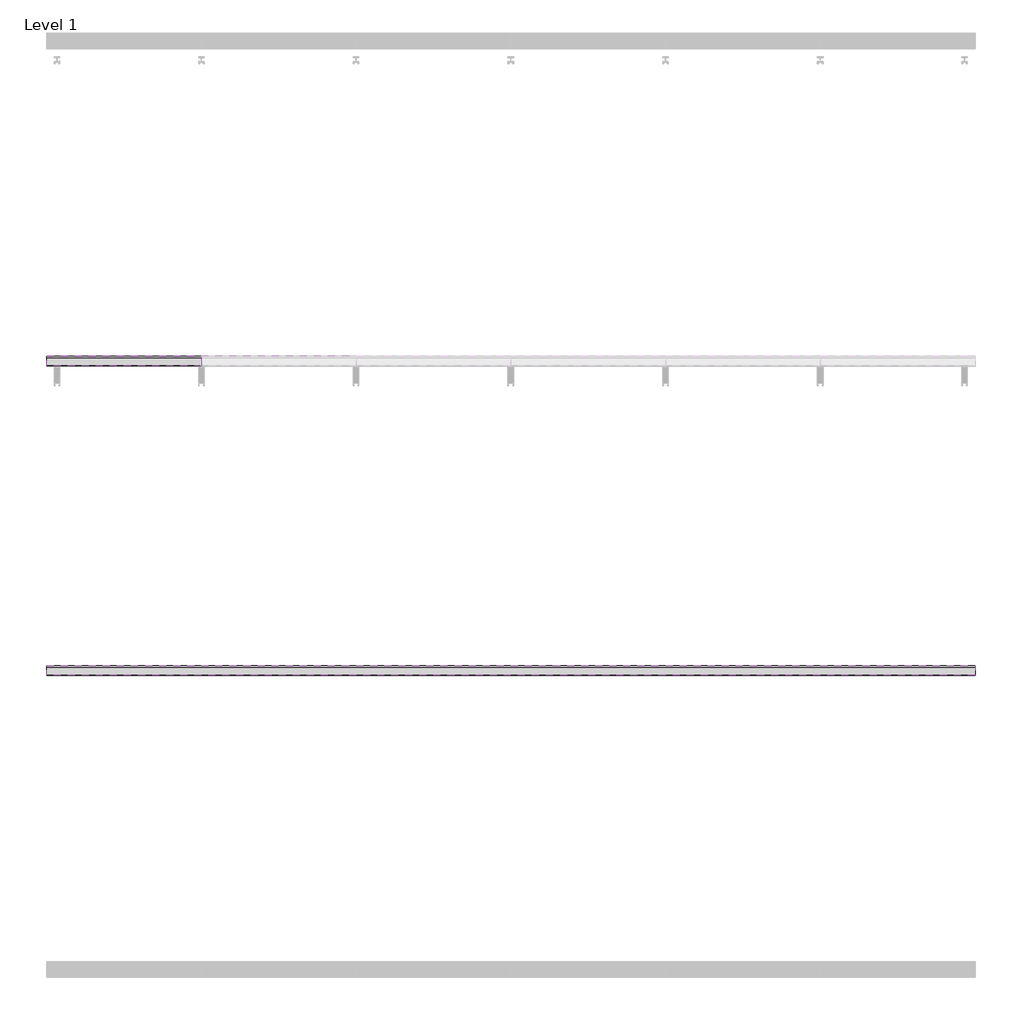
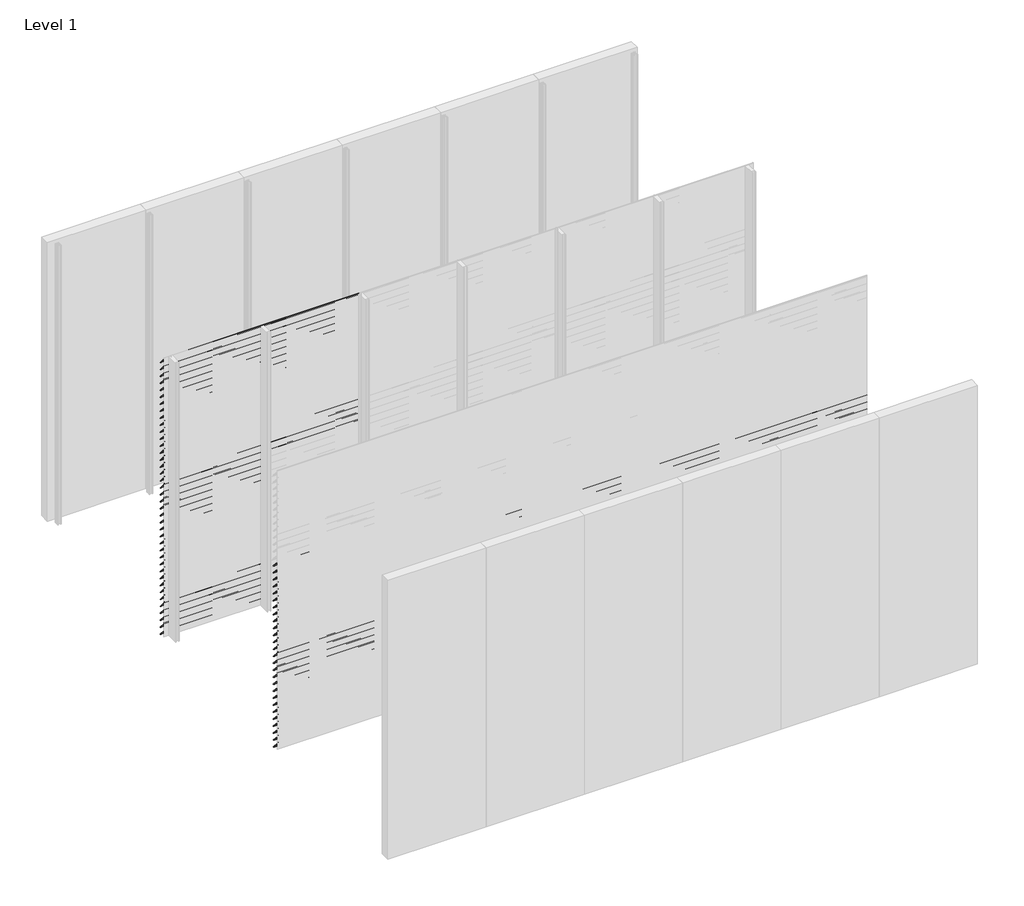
# One storey, part 7 of 35: 86 proxies.
"""IFC4 building model written with IfcOpenShell, lengths in millimetres."""

import ifcopenshell
import ifcopenshell.guid

model = None  # the IFC model being written
_history = None  # IfcOwnerHistory: only IFC2X3 demands one
_inside = {}  # id of a spatial element -> (the spatial element, [elements in it])
_under = {}  # id of a project, library or spatial element -> (it, [spatial elements below it])
_declared = {}  # id of a project -> (the project, [libraries it declares])
_typed = {}  # id of a type object -> (the type object, [elements of that type])
_made_of = {}  # id of a material, layer set ... -> (it, [elements and type objects made of it])


def new_model(schema):
    """Start an empty IFC model of exactly this schema.

    Asked for "IFC4X3", IfcOpenShell would pick the latest addendum, in which some entities
    have other attributes; the version numbers below select the first issue.
    IFC2X3 requires an IfcOwnerHistory on every rooted entity: one is made here for all.
    """
    global model, _history
    if schema == "IFC4X3":
        model = ifcopenshell.file(schema_version=(4, 3, 0, 0))
    else:
        model = ifcopenshell.file(schema=schema)
    _inside.clear()
    _under.clear()
    _declared.clear()
    _typed.clear()
    _made_of.clear()
    _history = None
    if model.schema == "IFC2X3":
        org = make("IfcOrganization", Name="unknown")
        user = make(
            "IfcPersonAndOrganization",
            ThePerson=make("IfcPerson", FamilyName="unknown"),
            TheOrganization=org,
        )
        app = make(
            "IfcApplication",
            ApplicationDeveloper=org,
            Version="unknown",
            ApplicationFullName="unknown",
            ApplicationIdentifier="unknown",
        )
        _history = make(
            "IfcOwnerHistory",
            OwningUser=user,
            OwningApplication=app,
            ChangeAction="ADDED",
            CreationDate=0,
        )
    return model


def make(cls, **values):
    """One entity of the class cls with the attributes given. An attribute that is None is left unset."""
    return model.create_entity(
        cls, **{name: value for name, value in values.items() if value is not None}
    )


def rooted(cls, **values):
    """An entity with a GlobalId (a new one), such as an element, a storey or a relation."""
    return make(cls, GlobalId=ifcopenshell.guid.new(), OwnerHistory=_history, **values)


def si_unit(unit_type, name, prefix=None):
    """IfcSIUnit, for example si_unit("LENGTHUNIT", "METRE", prefix="MILLI")."""
    return make("IfcSIUnit", UnitType=unit_type, Prefix=prefix, Name=name)


def assignment(units):
    """IfcUnitAssignment: the units of a project."""
    return None if units is None else make("IfcUnitAssignment", Units=units)


def point(xyz):
    """IfcCartesianPoint."""
    return None if xyz is None else make("IfcCartesianPoint", Coordinates=xyz)


def direction(xyz):
    """IfcDirection."""
    return None if xyz is None else make("IfcDirection", DirectionRatios=xyz)


def frame(location, z_axis=None, x_axis=None):
    """IfcAxis2Placement3D, a coordinate frame: its origin and axes. An axis left out is left unset."""
    return make(
        "IfcAxis2Placement3D",
        Location=point(location),
        Axis=direction(z_axis),
        RefDirection=direction(x_axis),
    )


def origin():
    """The frame at (0, 0, 0) with its axes left unset."""
    return frame((0.0, 0.0, 0.0))


def place(relative_to, where):
    """IfcLocalPlacement: puts the frame where relative to a parent placement (None: the world)."""
    return make(
        "IfcLocalPlacement", PlacementRelTo=relative_to, RelativePlacement=where
    )


def context(
    kind, dimensions, precision=None, world=None, true_north=None, identifier=None
):
    """IfcGeometricRepresentationContext, for example the 3D "Model" context."""
    return make(
        "IfcGeometricRepresentationContext",
        ContextIdentifier=identifier,
        ContextType=kind,
        CoordinateSpaceDimension=dimensions,
        Precision=precision,
        WorldCoordinateSystem=world,
        TrueNorth=true_north,
    )


def project(units=None, contexts=None):
    """IfcProject with its units and contexts."""
    return rooted(
        "IfcProject",
        Name="project",
        RepresentationContexts=contexts,
        UnitsInContext=assignment(units),
    )


def spatial(cls, under=None, at=None, **own):
    """A site, building, storey or space (cls), placed at a placement, below another one or the project."""
    s = rooted(cls, ObjectPlacement=at, **own)
    if under is not None:
        _under.setdefault(under.id(), (under, []))[1].append(s)
    return s


def polyline(points):
    """IfcPolyline through the points."""
    return make("IfcPolyline", Points=[point(p) for p in points])


def outline(outer, holes=None, kind="AREA"):
    """IfcArbitraryClosedProfileDef: a profile drawn as a closed curve; with holes, ...WithVoids."""
    if holes is None:
        return make("IfcArbitraryClosedProfileDef", ProfileType=kind, OuterCurve=outer)
    return make(
        "IfcArbitraryProfileDefWithVoids",
        ProfileType=kind,
        OuterCurve=outer,
        InnerCurves=holes,
    )


def extrude(swept, where, along, depth):
    """IfcExtrudedAreaSolid: the profile swept, set in the frame where, extruded along a direction by depth."""
    return make(
        "IfcExtrudedAreaSolid",
        SweptArea=swept,
        Position=where,
        ExtrudedDirection=direction(along),
        Depth=depth,
    )


def shape(context_of_items, identifier, shape_type, items):
    """IfcShapeRepresentation: the items that make up one representation, for example the "Body"."""
    return make(
        "IfcShapeRepresentation",
        ContextOfItems=context_of_items,
        RepresentationIdentifier=identifier,
        RepresentationType=shape_type,
        Items=items,
    )


def made_of(thing, what):
    """Note that an element or type object is made of a material, layer set ...; save() writes the relation."""
    if what is not None:
        _made_of.setdefault(what.id(), (what, []))[1].append(thing)
    return thing


def element(
    cls,
    number,
    at=None,
    inside=None,
    cuts=None,
    type_object=None,
    material=None,
    context=None,
    identifier="Body",
    shape_type=None,
    held_by="IfcProductDefinitionShape",
    body=None,
    shapes=None,
    **own,
):
    """One element of the class cls, such as IfcWall. Its Tag is "e" and its number.

    at: its placement. inside: the storey or other place that contains it. cuts: it is an
    opening in that element (IfcRelVoidsElement). A single representation is given by context,
    identifier, shape_type and body (its items); several are given by shapes. held_by: the class
    of the entity that holds the representations. save() writes the other relations.
    """
    e = rooted(cls, Tag="e%d" % number, ObjectPlacement=at, **own)
    if body is not None:
        shapes = [shape(context, identifier, shape_type, body)]
    if shapes is not None:
        e.Representation = make(held_by, Representations=shapes)
    if inside is not None:
        _inside.setdefault(inside.id(), (inside, []))[1].append(e)
    if cuts is not None:
        rooted(
            "IfcRelVoidsElement", RelatingBuildingElement=cuts, RelatedOpeningElement=e
        )
    if type_object is not None:
        _typed.setdefault(type_object.id(), (type_object, []))[1].append(e)
    return made_of(e, material)


def aggregate(whole, parts):
    """IfcRelAggregates: a whole, such as a stair, and the parts it consists of."""
    return rooted("IfcRelAggregates", RelatingObject=whole, RelatedObjects=parts)


def save(model, path):
    """Write the relations noted so far, then the file.

    IfcRelAggregates (storeys below a building ...), IfcRelContainedInSpatialStructure (elements
    in a storey), IfcRelDefinesByType, IfcRelAssociatesMaterial and IfcRelDeclares: one each for
    every whole, place, type object, material and project.
    """
    for whole, parts in _under.values():
        aggregate(whole, parts)
    for where, things in _inside.values():
        rooted(
            "IfcRelContainedInSpatialStructure",
            RelatedElements=things,
            RelatingStructure=where,
        )
    for kind, things in _typed.values():
        rooted("IfcRelDefinesByType", RelatedObjects=things, RelatingType=kind)
    for what, things in _made_of.values():
        rooted("IfcRelAssociatesMaterial", RelatedObjects=things, RelatingMaterial=what)
    for by, libraries in _declared.values():
        rooted("IfcRelDeclares", RelatingContext=by, RelatedDefinitions=libraries)
    model.write(path)


model = new_model("IFC4")

# Units and contexts
model_context = context("Model", 3, world=origin())
ifc_project = project(units=[si_unit("LENGTHUNIT", "METRE", prefix="MILLI")], contexts=[model_context])

# Site, building, storey
site = spatial("IfcSite", under=ifc_project)
building = spatial("IfcBuilding", under=site)
storey = spatial("IfcBuildingStorey", under=building, Name="Level 1", Elevation=0.0)

# Proxies
placement = place(None, origin())
element("IfcBuildingElementProxy", 1, Name="Wall Sweeps", at=placement, inside=storey, context=model_context, shape_type="SweptSolid", body=[
    extrude(outline(polyline([(-47996.5, 3000.0), (-47996.5, 2985.5463701), (-47934.5, 2913.9330051), (-47934.5, 2910.4), (-47936.0, 2910.4), (-47936.0, 2913.3738975), (-47998.0, 2984.9872626), (-47998.0, 3000.0), (-47996.5, 3000.0)])), frame((0.0, 0.0, 0.0), z_axis=(1.0, 0.0, 0.0), x_axis=(0.0, 1.0, 0.0)), (0.0, 0.0, 1.0), 1000.0),
])
element("IfcBuildingElementProxy", 2, Name="Wall Sweeps", at=placement, inside=storey, context=model_context, shape_type="SweptSolid", body=[
    extrude(outline(polyline([(-47996.5, 2925.0), (-47996.5, 2910.5463701), (-47934.5, 2838.9330051), (-47934.5, 2835.4), (-47936.0, 2835.4), (-47936.0, 2838.3738975), (-47998.0, 2909.9872626), (-47998.0, 2925.0), (-47996.5, 2925.0)])), frame((0.0, 0.0, 0.0), z_axis=(1.0, 0.0, 0.0), x_axis=(0.0, 1.0, 0.0)), (0.0, 0.0, 1.0), 1000.0),
])
element("IfcBuildingElementProxy", 3, Name="Wall Sweeps", at=placement, inside=storey, context=model_context, shape_type="SweptSolid", body=[
    extrude(outline(polyline([(-47996.5, 2850.0), (-47996.5, 2835.5463701), (-47934.5, 2763.9330051), (-47934.5, 2760.4), (-47936.0, 2760.4), (-47936.0, 2763.3738975), (-47998.0, 2834.9872626), (-47998.0, 2850.0), (-47996.5, 2850.0)])), frame((0.0, 0.0, 0.0), z_axis=(1.0, 0.0, 0.0), x_axis=(0.0, 1.0, 0.0)), (0.0, 0.0, 1.0), 1000.0),
])
element("IfcBuildingElementProxy", 4, Name="Wall Sweeps", at=placement, inside=storey, context=model_context, shape_type="SweptSolid", body=[
    extrude(outline(polyline([(-47996.5, 2775.0), (-47996.5, 2760.5463701), (-47934.5, 2688.9330051), (-47934.5, 2685.4), (-47936.0, 2685.4), (-47936.0, 2688.3738975), (-47998.0, 2759.9872626), (-47998.0, 2775.0), (-47996.5, 2775.0)])), frame((0.0, 0.0, 0.0), z_axis=(1.0, 0.0, 0.0), x_axis=(0.0, 1.0, 0.0)), (0.0, 0.0, 1.0), 1000.0),
])
element("IfcBuildingElementProxy", 5, Name="Wall Sweeps", at=placement, inside=storey, context=model_context, shape_type="SweptSolid", body=[
    extrude(outline(polyline([(-47996.5, 2700.0), (-47996.5, 2685.5463701), (-47934.5, 2613.9330051), (-47934.5, 2610.4), (-47936.0, 2610.4), (-47936.0, 2613.3738975), (-47998.0, 2684.9872626), (-47998.0, 2700.0), (-47996.5, 2700.0)])), frame((0.0, 0.0, 0.0), z_axis=(1.0, 0.0, 0.0), x_axis=(0.0, 1.0, 0.0)), (0.0, 0.0, 1.0), 1000.0),
])
element("IfcBuildingElementProxy", 6, Name="Wall Sweeps", at=placement, inside=storey, context=model_context, shape_type="SweptSolid", body=[
    extrude(outline(polyline([(-47996.5, 2625.0), (-47996.5, 2610.5463701), (-47934.5, 2538.9330051), (-47934.5, 2535.4), (-47936.0, 2535.4), (-47936.0, 2538.3738975), (-47998.0, 2609.9872626), (-47998.0, 2625.0), (-47996.5, 2625.0)])), frame((0.0, 0.0, 0.0), z_axis=(1.0, 0.0, 0.0), x_axis=(0.0, 1.0, 0.0)), (0.0, 0.0, 1.0), 1000.0),
])
element("IfcBuildingElementProxy", 7, Name="Wall Sweeps", at=placement, inside=storey, context=model_context, shape_type="SweptSolid", body=[
    extrude(outline(polyline([(-47996.5, 2550.0), (-47996.5, 2535.5463701), (-47934.5, 2463.9330051), (-47934.5, 2460.4), (-47936.0, 2460.4), (-47936.0, 2463.3738975), (-47998.0, 2534.9872626), (-47998.0, 2550.0), (-47996.5, 2550.0)])), frame((0.0, 0.0, 0.0), z_axis=(1.0, 0.0, 0.0), x_axis=(0.0, 1.0, 0.0)), (0.0, 0.0, 1.0), 1000.0),
])
element("IfcBuildingElementProxy", 8, Name="Wall Sweeps", at=placement, inside=storey, context=model_context, shape_type="SweptSolid", body=[
    extrude(outline(polyline([(-47996.5, 2475.0), (-47996.5, 2460.5463701), (-47934.5, 2388.9330051), (-47934.5, 2385.4), (-47936.0, 2385.4), (-47936.0, 2388.3738975), (-47998.0, 2459.9872626), (-47998.0, 2475.0), (-47996.5, 2475.0)])), frame((0.0, 0.0, 0.0), z_axis=(1.0, 0.0, 0.0), x_axis=(0.0, 1.0, 0.0)), (0.0, 0.0, 1.0), 1000.0),
])
element("IfcBuildingElementProxy", 9, Name="Wall Sweeps", at=placement, inside=storey, context=model_context, shape_type="SweptSolid", body=[
    extrude(outline(polyline([(-47996.5, 2400.0), (-47996.5, 2385.5463701), (-47934.5, 2313.9330051), (-47934.5, 2310.4), (-47936.0, 2310.4), (-47936.0, 2313.3738975), (-47998.0, 2384.9872626), (-47998.0, 2400.0), (-47996.5, 2400.0)])), frame((0.0, 0.0, 0.0), z_axis=(1.0, 0.0, 0.0), x_axis=(0.0, 1.0, 0.0)), (0.0, 0.0, 1.0), 1000.0),
])
element("IfcBuildingElementProxy", 10, Name="Wall Sweeps", at=placement, inside=storey, context=model_context, shape_type="SweptSolid", body=[
    extrude(outline(polyline([(-47996.5, 2325.0), (-47996.5, 2310.5463701), (-47934.5, 2238.9330051), (-47934.5, 2235.4), (-47936.0, 2235.4), (-47936.0, 2238.3738975), (-47998.0, 2309.9872626), (-47998.0, 2325.0), (-47996.5, 2325.0)])), frame((0.0, 0.0, 0.0), z_axis=(1.0, 0.0, 0.0), x_axis=(0.0, 1.0, 0.0)), (0.0, 0.0, 1.0), 1000.0),
])
element("IfcBuildingElementProxy", 11, Name="Wall Sweeps", at=placement, inside=storey, context=model_context, shape_type="SweptSolid", body=[
    extrude(outline(polyline([(-47996.5, 2250.0), (-47996.5, 2235.5463701), (-47934.5, 2163.9330051), (-47934.5, 2160.4), (-47936.0, 2160.4), (-47936.0, 2163.3738975), (-47998.0, 2234.9872626), (-47998.0, 2250.0), (-47996.5, 2250.0)])), frame((0.0, 0.0, 0.0), z_axis=(1.0, 0.0, 0.0), x_axis=(0.0, 1.0, 0.0)), (0.0, 0.0, 1.0), 1000.0),
])
element("IfcBuildingElementProxy", 12, Name="Wall Sweeps", at=placement, inside=storey, context=model_context, shape_type="SweptSolid", body=[
    extrude(outline(polyline([(-47996.5, 2175.0), (-47996.5, 2160.5463701), (-47934.5, 2088.9330051), (-47934.5, 2085.4), (-47936.0, 2085.4), (-47936.0, 2088.3738975), (-47998.0, 2159.9872626), (-47998.0, 2175.0), (-47996.5, 2175.0)])), frame((0.0, 0.0, 0.0), z_axis=(1.0, 0.0, 0.0), x_axis=(0.0, 1.0, 0.0)), (0.0, 0.0, 1.0), 1000.0),
])
element("IfcBuildingElementProxy", 13, Name="Wall Sweeps", at=placement, inside=storey, context=model_context, shape_type="SweptSolid", body=[
    extrude(outline(polyline([(-47996.5, 2100.0), (-47996.5, 2085.5463701), (-47934.5, 2013.9330051), (-47934.5, 2010.4), (-47936.0, 2010.4), (-47936.0, 2013.3738975), (-47998.0, 2084.9872626), (-47998.0, 2100.0), (-47996.5, 2100.0)])), frame((0.0, 0.0, 0.0), z_axis=(1.0, 0.0, 0.0), x_axis=(0.0, 1.0, 0.0)), (0.0, 0.0, 1.0), 1000.0),
])
element("IfcBuildingElementProxy", 14, Name="Wall Sweeps", at=placement, inside=storey, context=model_context, shape_type="SweptSolid", body=[
    extrude(outline(polyline([(-47996.5, 2025.0), (-47996.5, 2010.5463701), (-47934.5, 1938.9330051), (-47934.5, 1935.4), (-47936.0, 1935.4), (-47936.0, 1938.3738975), (-47998.0, 2009.9872626), (-47998.0, 2025.0), (-47996.5, 2025.0)])), frame((0.0, 0.0, 0.0), z_axis=(1.0, 0.0, 0.0), x_axis=(0.0, 1.0, 0.0)), (0.0, 0.0, 1.0), 1000.0),
])
element("IfcBuildingElementProxy", 15, Name="Wall Sweeps", at=placement, inside=storey, context=model_context, shape_type="SweptSolid", body=[
    extrude(outline(polyline([(-47996.5, 1950.0), (-47996.5, 1935.5463701), (-47934.5, 1863.9330051), (-47934.5, 1860.4), (-47936.0, 1860.4), (-47936.0, 1863.3738975), (-47998.0, 1934.9872626), (-47998.0, 1950.0), (-47996.5, 1950.0)])), frame((0.0, 0.0, 0.0), z_axis=(1.0, 0.0, 0.0), x_axis=(0.0, 1.0, 0.0)), (0.0, 0.0, 1.0), 1000.0),
])
element("IfcBuildingElementProxy", 16, Name="Wall Sweeps", at=placement, inside=storey, context=model_context, shape_type="SweptSolid", body=[
    extrude(outline(polyline([(-47996.5, 1875.0), (-47996.5, 1860.5463701), (-47934.5, 1788.9330051), (-47934.5, 1785.4), (-47936.0, 1785.4), (-47936.0, 1788.3738975), (-47998.0, 1859.9872626), (-47998.0, 1875.0), (-47996.5, 1875.0)])), frame((0.0, 0.0, 0.0), z_axis=(1.0, 0.0, 0.0), x_axis=(0.0, 1.0, 0.0)), (0.0, 0.0, 1.0), 1000.0),
])
element("IfcBuildingElementProxy", 17, Name="Wall Sweeps", at=placement, inside=storey, context=model_context, shape_type="SweptSolid", body=[
    extrude(outline(polyline([(-47996.5, 1800.0), (-47996.5, 1785.5463701), (-47934.5, 1713.9330051), (-47934.5, 1710.4), (-47936.0, 1710.4), (-47936.0, 1713.3738975), (-47998.0, 1784.9872626), (-47998.0, 1800.0), (-47996.5, 1800.0)])), frame((0.0, 0.0, 0.0), z_axis=(1.0, 0.0, 0.0), x_axis=(0.0, 1.0, 0.0)), (0.0, 0.0, 1.0), 1000.0),
])
element("IfcBuildingElementProxy", 18, Name="Wall Sweeps", at=placement, inside=storey, context=model_context, shape_type="SweptSolid", body=[
    extrude(outline(polyline([(-47996.5, 1725.0), (-47996.5, 1710.5463701), (-47934.5, 1638.9330051), (-47934.5, 1635.4), (-47936.0, 1635.4), (-47936.0, 1638.3738975), (-47998.0, 1709.9872626), (-47998.0, 1725.0), (-47996.5, 1725.0)])), frame((0.0, 0.0, 0.0), z_axis=(1.0, 0.0, 0.0), x_axis=(0.0, 1.0, 0.0)), (0.0, 0.0, 1.0), 1000.0),
])
element("IfcBuildingElementProxy", 19, Name="Wall Sweeps", at=placement, inside=storey, context=model_context, shape_type="SweptSolid", body=[
    extrude(outline(polyline([(-47996.5, 1650.0), (-47996.5, 1635.5463701), (-47934.5, 1563.9330051), (-47934.5, 1560.4), (-47936.0, 1560.4), (-47936.0, 1563.3738975), (-47998.0, 1634.9872626), (-47998.0, 1650.0), (-47996.5, 1650.0)])), frame((0.0, 0.0, 0.0), z_axis=(1.0, 0.0, 0.0), x_axis=(0.0, 1.0, 0.0)), (0.0, 0.0, 1.0), 1000.0),
])
element("IfcBuildingElementProxy", 20, Name="Wall Sweeps", at=placement, inside=storey, context=model_context, shape_type="SweptSolid", body=[
    extrude(outline(polyline([(-47996.5, 1575.0), (-47996.5, 1560.5463701), (-47934.5, 1488.9330051), (-47934.5, 1485.4), (-47936.0, 1485.4), (-47936.0, 1488.3738975), (-47998.0, 1559.9872626), (-47998.0, 1575.0), (-47996.5, 1575.0)])), frame((0.0, 0.0, 0.0), z_axis=(1.0, 0.0, 0.0), x_axis=(0.0, 1.0, 0.0)), (0.0, 0.0, 1.0), 1000.0),
])
element("IfcBuildingElementProxy", 21, Name="Wall Sweeps", at=placement, inside=storey, context=model_context, shape_type="SweptSolid", body=[
    extrude(outline(polyline([(-47996.5, 1500.0), (-47996.5, 1485.5463701), (-47934.5, 1413.9330051), (-47934.5, 1410.4), (-47936.0, 1410.4), (-47936.0, 1413.3738975), (-47998.0, 1484.9872626), (-47998.0, 1500.0), (-47996.5, 1500.0)])), frame((0.0, 0.0, 0.0), z_axis=(1.0, 0.0, 0.0), x_axis=(0.0, 1.0, 0.0)), (0.0, 0.0, 1.0), 1000.0),
])
element("IfcBuildingElementProxy", 22, Name="Wall Sweeps", at=placement, inside=storey, context=model_context, shape_type="SweptSolid", body=[
    extrude(outline(polyline([(-47996.5, 1425.0), (-47996.5, 1410.5463701), (-47934.5, 1338.9330051), (-47934.5, 1335.4), (-47936.0, 1335.4), (-47936.0, 1338.3738975), (-47998.0, 1409.9872626), (-47998.0, 1425.0), (-47996.5, 1425.0)])), frame((0.0, 0.0, 0.0), z_axis=(1.0, 0.0, 0.0), x_axis=(0.0, 1.0, 0.0)), (0.0, 0.0, 1.0), 1000.0),
])
element("IfcBuildingElementProxy", 23, Name="Wall Sweeps", at=placement, inside=storey, context=model_context, shape_type="SweptSolid", body=[
    extrude(outline(polyline([(-47996.5, 1350.0), (-47996.5, 1335.5463701), (-47934.5, 1263.9330051), (-47934.5, 1260.4), (-47936.0, 1260.4), (-47936.0, 1263.3738975), (-47998.0, 1334.9872626), (-47998.0, 1350.0), (-47996.5, 1350.0)])), frame((0.0, 0.0, 0.0), z_axis=(1.0, 0.0, 0.0), x_axis=(0.0, 1.0, 0.0)), (0.0, 0.0, 1.0), 1000.0),
])
element("IfcBuildingElementProxy", 24, Name="Wall Sweeps", at=placement, inside=storey, context=model_context, shape_type="SweptSolid", body=[
    extrude(outline(polyline([(-47996.5, 1275.0), (-47996.5, 1260.5463701), (-47934.5, 1188.9330051), (-47934.5, 1185.4), (-47936.0, 1185.4), (-47936.0, 1188.3738975), (-47998.0, 1259.9872626), (-47998.0, 1275.0), (-47996.5, 1275.0)])), frame((0.0, 0.0, 0.0), z_axis=(1.0, 0.0, 0.0), x_axis=(0.0, 1.0, 0.0)), (0.0, 0.0, 1.0), 1000.0),
])
element("IfcBuildingElementProxy", 25, Name="Wall Sweeps", at=placement, inside=storey, context=model_context, shape_type="SweptSolid", body=[
    extrude(outline(polyline([(-47996.5, 1200.0), (-47996.5, 1185.5463701), (-47934.5, 1113.9330051), (-47934.5, 1110.4), (-47936.0, 1110.4), (-47936.0, 1113.3738975), (-47998.0, 1184.9872626), (-47998.0, 1200.0), (-47996.5, 1200.0)])), frame((0.0, 0.0, 0.0), z_axis=(1.0, 0.0, 0.0), x_axis=(0.0, 1.0, 0.0)), (0.0, 0.0, 1.0), 1000.0),
])
element("IfcBuildingElementProxy", 26, Name="Wall Sweeps", at=placement, inside=storey, context=model_context, shape_type="SweptSolid", body=[
    extrude(outline(polyline([(-47996.5, 1125.0), (-47996.5, 1110.5463701), (-47934.5, 1038.9330051), (-47934.5, 1035.4), (-47936.0, 1035.4), (-47936.0, 1038.3738975), (-47998.0, 1109.9872626), (-47998.0, 1125.0), (-47996.5, 1125.0)])), frame((0.0, 0.0, 0.0), z_axis=(1.0, 0.0, 0.0), x_axis=(0.0, 1.0, 0.0)), (0.0, 0.0, 1.0), 1000.0),
])
element("IfcBuildingElementProxy", 27, Name="Wall Sweeps", at=placement, inside=storey, context=model_context, shape_type="SweptSolid", body=[
    extrude(outline(polyline([(-47996.5, 1050.0), (-47996.5, 1035.5463701), (-47934.5, 963.9330051), (-47934.5, 960.4), (-47936.0, 960.4), (-47936.0, 963.3738975), (-47998.0, 1034.9872626), (-47998.0, 1050.0), (-47996.5, 1050.0)])), frame((0.0, 0.0, 0.0), z_axis=(1.0, 0.0, 0.0), x_axis=(0.0, 1.0, 0.0)), (0.0, 0.0, 1.0), 1000.0),
])
element("IfcBuildingElementProxy", 28, Name="Wall Sweeps", at=placement, inside=storey, context=model_context, shape_type="SweptSolid", body=[
    extrude(outline(polyline([(-47996.5, 975.0), (-47996.5, 960.5463701), (-47934.5, 888.9330051), (-47934.5, 885.4), (-47936.0, 885.4), (-47936.0, 888.3738975), (-47998.0, 959.9872626), (-47998.0, 975.0), (-47996.5, 975.0)])), frame((0.0, 0.0, 0.0), z_axis=(1.0, 0.0, 0.0), x_axis=(0.0, 1.0, 0.0)), (0.0, 0.0, 1.0), 1000.0),
])
element("IfcBuildingElementProxy", 29, Name="Wall Sweeps", at=placement, inside=storey, context=model_context, shape_type="SweptSolid", body=[
    extrude(outline(polyline([(-47996.5, 900.0), (-47996.5, 885.5463701), (-47934.5, 813.9330051), (-47934.5, 810.4), (-47936.0, 810.4), (-47936.0, 813.3738975), (-47998.0, 884.9872626), (-47998.0, 900.0), (-47996.5, 900.0)])), frame((0.0, 0.0, 0.0), z_axis=(1.0, 0.0, 0.0), x_axis=(0.0, 1.0, 0.0)), (0.0, 0.0, 1.0), 1000.0),
])
element("IfcBuildingElementProxy", 30, Name="Wall Sweeps", at=placement, inside=storey, context=model_context, shape_type="SweptSolid", body=[
    extrude(outline(polyline([(-47996.5, 825.0), (-47996.5, 810.5463701), (-47934.5, 738.9330051), (-47934.5, 735.4), (-47936.0, 735.4), (-47936.0, 738.3738975), (-47998.0, 809.9872626), (-47998.0, 825.0), (-47996.5, 825.0)])), frame((0.0, 0.0, 0.0), z_axis=(1.0, 0.0, 0.0), x_axis=(0.0, 1.0, 0.0)), (0.0, 0.0, 1.0), 1000.0),
])
element("IfcBuildingElementProxy", 31, Name="Wall Sweeps", at=placement, inside=storey, context=model_context, shape_type="SweptSolid", body=[
    extrude(outline(polyline([(-47996.5, 750.0), (-47996.5, 735.5463701), (-47934.5, 663.9330051), (-47934.5, 660.4), (-47936.0, 660.4), (-47936.0, 663.3738975), (-47998.0, 734.9872626), (-47998.0, 750.0), (-47996.5, 750.0)])), frame((0.0, 0.0, 0.0), z_axis=(1.0, 0.0, 0.0), x_axis=(0.0, 1.0, 0.0)), (0.0, 0.0, 1.0), 1000.0),
])
element("IfcBuildingElementProxy", 32, Name="Wall Sweeps", at=placement, inside=storey, context=model_context, shape_type="SweptSolid", body=[
    extrude(outline(polyline([(-47996.5, 675.0), (-47996.5, 660.5463701), (-47934.5, 588.9330051), (-47934.5, 585.4), (-47936.0, 585.4), (-47936.0, 588.3738975), (-47998.0, 659.9872626), (-47998.0, 675.0), (-47996.5, 675.0)])), frame((0.0, 0.0, 0.0), z_axis=(1.0, 0.0, 0.0), x_axis=(0.0, 1.0, 0.0)), (0.0, 0.0, 1.0), 1000.0),
])
element("IfcBuildingElementProxy", 33, Name="Wall Sweeps", at=placement, inside=storey, context=model_context, shape_type="SweptSolid", body=[
    extrude(outline(polyline([(-47996.5, 600.0), (-47996.5, 585.5463701), (-47934.5, 513.9330051), (-47934.5, 510.4), (-47936.0, 510.4), (-47936.0, 513.3738975), (-47998.0, 584.9872626), (-47998.0, 600.0), (-47996.5, 600.0)])), frame((0.0, 0.0, 0.0), z_axis=(1.0, 0.0, 0.0), x_axis=(0.0, 1.0, 0.0)), (0.0, 0.0, 1.0), 1000.0),
])
element("IfcBuildingElementProxy", 34, Name="Wall Sweeps", at=placement, inside=storey, context=model_context, shape_type="SweptSolid", body=[
    extrude(outline(polyline([(-47996.5, 525.0), (-47996.5, 510.5463701), (-47934.5, 438.9330051), (-47934.5, 435.4), (-47936.0, 435.4), (-47936.0, 438.3738975), (-47998.0, 509.9872626), (-47998.0, 525.0), (-47996.5, 525.0)])), frame((0.0, 0.0, 0.0), z_axis=(1.0, 0.0, 0.0), x_axis=(0.0, 1.0, 0.0)), (0.0, 0.0, 1.0), 1000.0),
])
element("IfcBuildingElementProxy", 35, Name="Wall Sweeps", at=placement, inside=storey, context=model_context, shape_type="SweptSolid", body=[
    extrude(outline(polyline([(-47996.5, 450.0), (-47996.5, 435.5463701), (-47934.5, 363.9330051), (-47934.5, 360.4), (-47936.0, 360.4), (-47936.0, 363.3738975), (-47998.0, 434.9872626), (-47998.0, 450.0), (-47996.5, 450.0)])), frame((0.0, 0.0, 0.0), z_axis=(1.0, 0.0, 0.0), x_axis=(0.0, 1.0, 0.0)), (0.0, 0.0, 1.0), 1000.0),
])
element("IfcBuildingElementProxy", 36, Name="Wall Sweeps", at=placement, inside=storey, context=model_context, shape_type="SweptSolid", body=[
    extrude(outline(polyline([(-47996.5, 375.0), (-47996.5, 360.5463701), (-47934.5, 288.9330051), (-47934.5, 285.4), (-47936.0, 285.4), (-47936.0, 288.3738975), (-47998.0, 359.9872626), (-47998.0, 375.0), (-47996.5, 375.0)])), frame((0.0, 0.0, 0.0), z_axis=(1.0, 0.0, 0.0), x_axis=(0.0, 1.0, 0.0)), (0.0, 0.0, 1.0), 1000.0),
])
element("IfcBuildingElementProxy", 37, Name="Wall Sweeps", at=placement, inside=storey, context=model_context, shape_type="SweptSolid", body=[
    extrude(outline(polyline([(-47996.5, 300.0), (-47996.5, 285.5463701), (-47934.5, 213.9330051), (-47934.5, 210.4), (-47936.0, 210.4), (-47936.0, 213.3738975), (-47998.0, 284.9872626), (-47998.0, 300.0), (-47996.5, 300.0)])), frame((0.0, 0.0, 0.0), z_axis=(1.0, 0.0, 0.0), x_axis=(0.0, 1.0, 0.0)), (0.0, 0.0, 1.0), 1000.0),
])
element("IfcBuildingElementProxy", 38, Name="Wall Sweeps", at=placement, inside=storey, context=model_context, shape_type="SweptSolid", body=[
    extrude(outline(polyline([(-47996.5, 225.0), (-47996.5, 210.5463701), (-47934.5, 138.9330051), (-47934.5, 135.4), (-47936.0, 135.4), (-47936.0, 138.3738975), (-47998.0, 209.9872626), (-47998.0, 225.0), (-47996.5, 225.0)])), frame((0.0, 0.0, 0.0), z_axis=(1.0, 0.0, 0.0), x_axis=(0.0, 1.0, 0.0)), (0.0, 0.0, 1.0), 1000.0),
])
element("IfcBuildingElementProxy", 39, Name="Wall Sweeps", at=placement, inside=storey, context=model_context, shape_type="SweptSolid", body=[
    extrude(outline(polyline([(-47996.5, 150.0), (-47996.5, 135.5463701), (-47934.5, 63.9330051), (-47934.5, 60.4), (-47936.0, 60.4), (-47936.0, 63.3738975), (-47998.0, 134.9872626), (-47998.0, 150.0), (-47996.5, 150.0)])), frame((0.0, 0.0, 0.0), z_axis=(1.0, 0.0, 0.0), x_axis=(0.0, 1.0, 0.0)), (0.0, 0.0, 1.0), 1000.0),
])
element("IfcBuildingElementProxy", 40, Name="Wall Sweeps", at=placement, inside=storey, context=model_context, shape_type="SweptSolid", body=[
    extrude(outline(polyline([(-47996.5, 75.0), (-47996.5, 60.5463701), (-47934.5, -11.0669949), (-47934.5, -14.6), (-47936.0, -14.6), (-47936.0, -11.6261025), (-47998.0, 59.9872626), (-47998.0, 75.0), (-47996.5, 75.0)])), frame((0.0, 0.0, 0.0), z_axis=(1.0, 0.0, 0.0), x_axis=(0.0, 1.0, 0.0)), (0.0, 0.0, 1.0), 1000.0),
])
element("IfcBuildingElementProxy", 41, Name="Wall Sweeps", at=placement, inside=storey, context=model_context, shape_type="SweptSolid", body=[
    extrude(outline(polyline([(-47996.5, 3000.0), (-47996.5, 2985.5463701), (-47934.5, 2913.9330051), (-47934.5, 2910.4), (-47936.0, 2910.4), (-47936.0, 2913.3738975), (-47998.0, 2984.9872626), (-47998.0, 3000.0), (-47996.5, 3000.0)])), frame((1000.0, 0.0, 0.0), z_axis=(1.0, 0.0, 0.0), x_axis=(0.0, 1.0, 0.0)), (0.0, 0.0, 1.0), 1000.0),
])
element("IfcBuildingElementProxy", 42, Name="Wall Sweeps", at=placement, inside=storey, context=model_context, shape_type="SweptSolid", body=[
    extrude(outline(polyline([(-47996.5, 2925.0), (-47996.5, 2910.5463701), (-47934.5, 2838.9330051), (-47934.5, 2835.4), (-47936.0, 2835.4), (-47936.0, 2838.3738975), (-47998.0, 2909.9872626), (-47998.0, 2925.0), (-47996.5, 2925.0)])), frame((1000.0, 0.0, 0.0), z_axis=(1.0, 0.0, 0.0), x_axis=(0.0, 1.0, 0.0)), (0.0, 0.0, 1.0), 1000.0),
])
element("IfcBuildingElementProxy", 43, Name="Wall Sweeps", at=placement, inside=storey, context=model_context, shape_type="SweptSolid", body=[
    extrude(outline(polyline([(-47996.5, 2850.0), (-47996.5, 2835.5463701), (-47934.5, 2763.9330051), (-47934.5, 2760.4), (-47936.0, 2760.4), (-47936.0, 2763.3738975), (-47998.0, 2834.9872626), (-47998.0, 2850.0), (-47996.5, 2850.0)])), frame((1000.0, 0.0, 0.0), z_axis=(1.0, 0.0, 0.0), x_axis=(0.0, 1.0, 0.0)), (0.0, 0.0, 1.0), 1000.0),
])
element("IfcBuildingElementProxy", 44, Name="Wall Sweeps", at=placement, inside=storey, context=model_context, shape_type="SweptSolid", body=[
    extrude(outline(polyline([(-47996.5, 2775.0), (-47996.5, 2760.5463701), (-47934.5, 2688.9330051), (-47934.5, 2685.4), (-47936.0, 2685.4), (-47936.0, 2688.3738975), (-47998.0, 2759.9872626), (-47998.0, 2775.0), (-47996.5, 2775.0)])), frame((1000.0, 0.0, 0.0), z_axis=(1.0, 0.0, 0.0), x_axis=(0.0, 1.0, 0.0)), (0.0, 0.0, 1.0), 1000.0),
])
element("IfcBuildingElementProxy", 45, Name="Wall Sweeps", at=placement, inside=storey, context=model_context, shape_type="SweptSolid", body=[
    extrude(outline(polyline([(-47996.5, 2700.0), (-47996.5, 2685.5463701), (-47934.5, 2613.9330051), (-47934.5, 2610.4), (-47936.0, 2610.4), (-47936.0, 2613.3738975), (-47998.0, 2684.9872626), (-47998.0, 2700.0), (-47996.5, 2700.0)])), frame((1000.0, 0.0, 0.0), z_axis=(1.0, 0.0, 0.0), x_axis=(0.0, 1.0, 0.0)), (0.0, 0.0, 1.0), 1000.0),
])
element("IfcBuildingElementProxy", 46, Name="Wall Sweeps", at=placement, inside=storey, context=model_context, shape_type="SweptSolid", body=[
    extrude(outline(polyline([(-47996.5, 2625.0), (-47996.5, 2610.5463701), (-47934.5, 2538.9330051), (-47934.5, 2535.4), (-47936.0, 2535.4), (-47936.0, 2538.3738975), (-47998.0, 2609.9872626), (-47998.0, 2625.0), (-47996.5, 2625.0)])), frame((1000.0, 0.0, 0.0), z_axis=(1.0, 0.0, 0.0), x_axis=(0.0, 1.0, 0.0)), (0.0, 0.0, 1.0), 1000.0),
])
element("IfcBuildingElementProxy", 47, Name="Wall Sweeps", at=placement, inside=storey, context=model_context, shape_type="SweptSolid", body=[
    extrude(outline(polyline([(-47996.5, 2550.0), (-47996.5, 2535.5463701), (-47934.5, 2463.9330051), (-47934.5, 2460.4), (-47936.0, 2460.4), (-47936.0, 2463.3738975), (-47998.0, 2534.9872626), (-47998.0, 2550.0), (-47996.5, 2550.0)])), frame((1000.0, 0.0, 0.0), z_axis=(1.0, 0.0, 0.0), x_axis=(0.0, 1.0, 0.0)), (0.0, 0.0, 1.0), 1000.0),
])
element("IfcBuildingElementProxy", 48, Name="Wall Sweeps", at=placement, inside=storey, context=model_context, shape_type="SweptSolid", body=[
    extrude(outline(polyline([(-47996.5, 2475.0), (-47996.5, 2460.5463701), (-47934.5, 2388.9330051), (-47934.5, 2385.4), (-47936.0, 2385.4), (-47936.0, 2388.3738975), (-47998.0, 2459.9872626), (-47998.0, 2475.0), (-47996.5, 2475.0)])), frame((1000.0, 0.0, 0.0), z_axis=(1.0, 0.0, 0.0), x_axis=(0.0, 1.0, 0.0)), (0.0, 0.0, 1.0), 1000.0),
])
element("IfcBuildingElementProxy", 49, Name="Wall Sweeps", at=placement, inside=storey, context=model_context, shape_type="SweptSolid", body=[
    extrude(outline(polyline([(-47996.5, 2400.0), (-47996.5, 2385.5463701), (-47934.5, 2313.9330051), (-47934.5, 2310.4), (-47936.0, 2310.4), (-47936.0, 2313.3738975), (-47998.0, 2384.9872626), (-47998.0, 2400.0), (-47996.5, 2400.0)])), frame((1000.0, 0.0, 0.0), z_axis=(1.0, 0.0, 0.0), x_axis=(0.0, 1.0, 0.0)), (0.0, 0.0, 1.0), 1000.0),
])
element("IfcBuildingElementProxy", 50, Name="Wall Sweeps", at=placement, inside=storey, context=model_context, shape_type="SweptSolid", body=[
    extrude(outline(polyline([(-47996.5, 2325.0), (-47996.5, 2310.5463701), (-47934.5, 2238.9330051), (-47934.5, 2235.4), (-47936.0, 2235.4), (-47936.0, 2238.3738975), (-47998.0, 2309.9872626), (-47998.0, 2325.0), (-47996.5, 2325.0)])), frame((1000.0, 0.0, 0.0), z_axis=(1.0, 0.0, 0.0), x_axis=(0.0, 1.0, 0.0)), (0.0, 0.0, 1.0), 1000.0),
])
element("IfcBuildingElementProxy", 51, Name="Wall Sweeps", at=placement, inside=storey, context=model_context, shape_type="SweptSolid", body=[
    extrude(outline(polyline([(-47996.5, 2250.0), (-47996.5, 2235.5463701), (-47934.5, 2163.9330051), (-47934.5, 2160.4), (-47936.0, 2160.4), (-47936.0, 2163.3738975), (-47998.0, 2234.9872626), (-47998.0, 2250.0), (-47996.5, 2250.0)])), frame((1000.0, 0.0, 0.0), z_axis=(1.0, 0.0, 0.0), x_axis=(0.0, 1.0, 0.0)), (0.0, 0.0, 1.0), 1000.0),
])
element("IfcBuildingElementProxy", 52, Name="Wall Sweeps", at=placement, inside=storey, context=model_context, shape_type="SweptSolid", body=[
    extrude(outline(polyline([(-47996.5, 2175.0), (-47996.5, 2160.5463701), (-47934.5, 2088.9330051), (-47934.5, 2085.4), (-47936.0, 2085.4), (-47936.0, 2088.3738975), (-47998.0, 2159.9872626), (-47998.0, 2175.0), (-47996.5, 2175.0)])), frame((1000.0, 0.0, 0.0), z_axis=(1.0, 0.0, 0.0), x_axis=(0.0, 1.0, 0.0)), (0.0, 0.0, 1.0), 1000.0),
])
element("IfcBuildingElementProxy", 53, Name="Wall Sweeps", at=placement, inside=storey, context=model_context, shape_type="SweptSolid", body=[
    extrude(outline(polyline([(-47996.5, 2100.0), (-47996.5, 2085.5463701), (-47934.5, 2013.9330051), (-47934.5, 2010.4), (-47936.0, 2010.4), (-47936.0, 2013.3738975), (-47998.0, 2084.9872626), (-47998.0, 2100.0), (-47996.5, 2100.0)])), frame((1000.0, 0.0, 0.0), z_axis=(1.0, 0.0, 0.0), x_axis=(0.0, 1.0, 0.0)), (0.0, 0.0, 1.0), 1000.0),
])
element("IfcBuildingElementProxy", 54, Name="Wall Sweeps", at=placement, inside=storey, context=model_context, shape_type="SweptSolid", body=[
    extrude(outline(polyline([(-47996.5, 2025.0), (-47996.5, 2010.5463701), (-47934.5, 1938.9330051), (-47934.5, 1935.4), (-47936.0, 1935.4), (-47936.0, 1938.3738975), (-47998.0, 2009.9872626), (-47998.0, 2025.0), (-47996.5, 2025.0)])), frame((1000.0, 0.0, 0.0), z_axis=(1.0, 0.0, 0.0), x_axis=(0.0, 1.0, 0.0)), (0.0, 0.0, 1.0), 1000.0),
])
element("IfcBuildingElementProxy", 55, Name="Wall Sweeps", at=placement, inside=storey, context=model_context, shape_type="SweptSolid", body=[
    extrude(outline(polyline([(-47996.5, 1950.0), (-47996.5, 1935.5463701), (-47934.5, 1863.9330051), (-47934.5, 1860.4), (-47936.0, 1860.4), (-47936.0, 1863.3738975), (-47998.0, 1934.9872626), (-47998.0, 1950.0), (-47996.5, 1950.0)])), frame((1000.0, 0.0, 0.0), z_axis=(1.0, 0.0, 0.0), x_axis=(0.0, 1.0, 0.0)), (0.0, 0.0, 1.0), 1000.0),
])
element("IfcBuildingElementProxy", 56, Name="Wall Sweeps", at=placement, inside=storey, context=model_context, shape_type="SweptSolid", body=[
    extrude(outline(polyline([(-47996.5, 1875.0), (-47996.5, 1860.5463701), (-47934.5, 1788.9330051), (-47934.5, 1785.4), (-47936.0, 1785.4), (-47936.0, 1788.3738975), (-47998.0, 1859.9872626), (-47998.0, 1875.0), (-47996.5, 1875.0)])), frame((1000.0, 0.0, 0.0), z_axis=(1.0, 0.0, 0.0), x_axis=(0.0, 1.0, 0.0)), (0.0, 0.0, 1.0), 1000.0),
])
element("IfcBuildingElementProxy", 57, Name="Wall Sweeps", at=placement, inside=storey, context=model_context, shape_type="SweptSolid", body=[
    extrude(outline(polyline([(-47996.5, 1800.0), (-47996.5, 1785.5463701), (-47934.5, 1713.9330051), (-47934.5, 1710.4), (-47936.0, 1710.4), (-47936.0, 1713.3738975), (-47998.0, 1784.9872626), (-47998.0, 1800.0), (-47996.5, 1800.0)])), frame((1000.0, 0.0, 0.0), z_axis=(1.0, 0.0, 0.0), x_axis=(0.0, 1.0, 0.0)), (0.0, 0.0, 1.0), 1000.0),
])
element("IfcBuildingElementProxy", 58, Name="Wall Sweeps", at=placement, inside=storey, context=model_context, shape_type="SweptSolid", body=[
    extrude(outline(polyline([(-47996.5, 1725.0), (-47996.5, 1710.5463701), (-47934.5, 1638.9330051), (-47934.5, 1635.4), (-47936.0, 1635.4), (-47936.0, 1638.3738975), (-47998.0, 1709.9872626), (-47998.0, 1725.0), (-47996.5, 1725.0)])), frame((1000.0, 0.0, 0.0), z_axis=(1.0, 0.0, 0.0), x_axis=(0.0, 1.0, 0.0)), (0.0, 0.0, 1.0), 1000.0),
])
element("IfcBuildingElementProxy", 59, Name="Wall Sweeps", at=placement, inside=storey, context=model_context, shape_type="SweptSolid", body=[
    extrude(outline(polyline([(-47996.5, 1650.0), (-47996.5, 1635.5463701), (-47934.5, 1563.9330051), (-47934.5, 1560.4), (-47936.0, 1560.4), (-47936.0, 1563.3738975), (-47998.0, 1634.9872626), (-47998.0, 1650.0), (-47996.5, 1650.0)])), frame((1000.0, 0.0, 0.0), z_axis=(1.0, 0.0, 0.0), x_axis=(0.0, 1.0, 0.0)), (0.0, 0.0, 1.0), 1000.0),
])
element("IfcBuildingElementProxy", 60, Name="Wall Sweeps", at=placement, inside=storey, context=model_context, shape_type="SweptSolid", body=[
    extrude(outline(polyline([(-49996.5, 2025.0), (-49996.5, 2010.5463701), (-49934.5, 1938.9330051), (-49934.5, 1935.4), (-49936.0, 1935.4), (-49936.0, 1938.3738975), (-49998.0, 2009.9872626), (-49998.0, 2025.0), (-49996.5, 2025.0)])), frame((0.0, 0.0, 0.0), z_axis=(1.0, 0.0, 0.0), x_axis=(0.0, 1.0, 0.0)), (0.0, 0.0, 1.0), 6000.0),
])
element("IfcBuildingElementProxy", 61, Name="Wall Sweeps", at=placement, inside=storey, context=model_context, shape_type="SweptSolid", body=[
    extrude(outline(polyline([(-49996.5, 1950.0), (-49996.5, 1935.5463701), (-49934.5, 1863.9330051), (-49934.5, 1860.4), (-49936.0, 1860.4), (-49936.0, 1863.3738975), (-49998.0, 1934.9872626), (-49998.0, 1950.0), (-49996.5, 1950.0)])), frame((0.0, 0.0, 0.0), z_axis=(1.0, 0.0, 0.0), x_axis=(0.0, 1.0, 0.0)), (0.0, 0.0, 1.0), 6000.0),
])
element("IfcBuildingElementProxy", 62, Name="Wall Sweeps", at=placement, inside=storey, context=model_context, shape_type="SweptSolid", body=[
    extrude(outline(polyline([(-49996.5, 1875.0), (-49996.5, 1860.5463701), (-49934.5, 1788.9330051), (-49934.5, 1785.4), (-49936.0, 1785.4), (-49936.0, 1788.3738975), (-49998.0, 1859.9872626), (-49998.0, 1875.0), (-49996.5, 1875.0)])), frame((0.0, 0.0, 0.0), z_axis=(1.0, 0.0, 0.0), x_axis=(0.0, 1.0, 0.0)), (0.0, 0.0, 1.0), 6000.0),
])
element("IfcBuildingElementProxy", 63, Name="Wall Sweeps", at=placement, inside=storey, context=model_context, shape_type="SweptSolid", body=[
    extrude(outline(polyline([(-49996.5, 1800.0), (-49996.5, 1785.5463701), (-49934.5, 1713.9330051), (-49934.5, 1710.4), (-49936.0, 1710.4), (-49936.0, 1713.3738975), (-49998.0, 1784.9872626), (-49998.0, 1800.0), (-49996.5, 1800.0)])), frame((0.0, 0.0, 0.0), z_axis=(1.0, 0.0, 0.0), x_axis=(0.0, 1.0, 0.0)), (0.0, 0.0, 1.0), 6000.0),
])
element("IfcBuildingElementProxy", 64, Name="Wall Sweeps", at=placement, inside=storey, context=model_context, shape_type="SweptSolid", body=[
    extrude(outline(polyline([(-49996.5, 1725.0), (-49996.5, 1710.5463701), (-49934.5, 1638.9330051), (-49934.5, 1635.4), (-49936.0, 1635.4), (-49936.0, 1638.3738975), (-49998.0, 1709.9872626), (-49998.0, 1725.0), (-49996.5, 1725.0)])), frame((0.0, 0.0, 0.0), z_axis=(1.0, 0.0, 0.0), x_axis=(0.0, 1.0, 0.0)), (0.0, 0.0, 1.0), 6000.0),
])
element("IfcBuildingElementProxy", 65, Name="Wall Sweeps", at=placement, inside=storey, context=model_context, shape_type="SweptSolid", body=[
    extrude(outline(polyline([(-49996.5, 1650.0), (-49996.5, 1635.5463701), (-49934.5, 1563.9330051), (-49934.5, 1560.4), (-49936.0, 1560.4), (-49936.0, 1563.3738975), (-49998.0, 1634.9872626), (-49998.0, 1650.0), (-49996.5, 1650.0)])), frame((0.0, 0.0, 0.0), z_axis=(1.0, 0.0, 0.0), x_axis=(0.0, 1.0, 0.0)), (0.0, 0.0, 1.0), 6000.0),
])
element("IfcBuildingElementProxy", 66, Name="Wall Sweeps", at=placement, inside=storey, context=model_context, shape_type="SweptSolid", body=[
    extrude(outline(polyline([(-49996.5, 1575.0), (-49996.5, 1560.5463701), (-49934.5, 1488.9330051), (-49934.5, 1485.4), (-49936.0, 1485.4), (-49936.0, 1488.3738975), (-49998.0, 1559.9872626), (-49998.0, 1575.0), (-49996.5, 1575.0)])), frame((0.0, 0.0, 0.0), z_axis=(1.0, 0.0, 0.0), x_axis=(0.0, 1.0, 0.0)), (0.0, 0.0, 1.0), 6000.0),
])
element("IfcBuildingElementProxy", 67, Name="Wall Sweeps", at=placement, inside=storey, context=model_context, shape_type="SweptSolid", body=[
    extrude(outline(polyline([(-49996.5, 1500.0), (-49996.5, 1485.5463701), (-49934.5, 1413.9330051), (-49934.5, 1410.4), (-49936.0, 1410.4), (-49936.0, 1413.3738975), (-49998.0, 1484.9872626), (-49998.0, 1500.0), (-49996.5, 1500.0)])), frame((0.0, 0.0, 0.0), z_axis=(1.0, 0.0, 0.0), x_axis=(0.0, 1.0, 0.0)), (0.0, 0.0, 1.0), 6000.0),
])
element("IfcBuildingElementProxy", 68, Name="Wall Sweeps", at=placement, inside=storey, context=model_context, shape_type="SweptSolid", body=[
    extrude(outline(polyline([(-49996.5, 1425.0), (-49996.5, 1410.5463701), (-49934.5, 1338.9330051), (-49934.5, 1335.4), (-49936.0, 1335.4), (-49936.0, 1338.3738975), (-49998.0, 1409.9872626), (-49998.0, 1425.0), (-49996.5, 1425.0)])), frame((0.0, 0.0, 0.0), z_axis=(1.0, 0.0, 0.0), x_axis=(0.0, 1.0, 0.0)), (0.0, 0.0, 1.0), 6000.0),
])
element("IfcBuildingElementProxy", 69, Name="Wall Sweeps", at=placement, inside=storey, context=model_context, shape_type="SweptSolid", body=[
    extrude(outline(polyline([(-49996.5, 1350.0), (-49996.5, 1335.5463701), (-49934.5, 1263.9330051), (-49934.5, 1260.4), (-49936.0, 1260.4), (-49936.0, 1263.3738975), (-49998.0, 1334.9872626), (-49998.0, 1350.0), (-49996.5, 1350.0)])), frame((0.0, 0.0, 0.0), z_axis=(1.0, 0.0, 0.0), x_axis=(0.0, 1.0, 0.0)), (0.0, 0.0, 1.0), 6000.0),
])
element("IfcBuildingElementProxy", 70, Name="Wall Sweeps", at=placement, inside=storey, context=model_context, shape_type="SweptSolid", body=[
    extrude(outline(polyline([(-49996.5, 1275.0), (-49996.5, 1260.5463701), (-49934.5, 1188.9330051), (-49934.5, 1185.4), (-49936.0, 1185.4), (-49936.0, 1188.3738975), (-49998.0, 1259.9872626), (-49998.0, 1275.0), (-49996.5, 1275.0)])), frame((0.0, 0.0, 0.0), z_axis=(1.0, 0.0, 0.0), x_axis=(0.0, 1.0, 0.0)), (0.0, 0.0, 1.0), 6000.0),
])
element("IfcBuildingElementProxy", 71, Name="Wall Sweeps", at=placement, inside=storey, context=model_context, shape_type="SweptSolid", body=[
    extrude(outline(polyline([(-49996.5, 1200.0), (-49996.5, 1185.5463701), (-49934.5, 1113.9330051), (-49934.5, 1110.4), (-49936.0, 1110.4), (-49936.0, 1113.3738975), (-49998.0, 1184.9872626), (-49998.0, 1200.0), (-49996.5, 1200.0)])), frame((0.0, 0.0, 0.0), z_axis=(1.0, 0.0, 0.0), x_axis=(0.0, 1.0, 0.0)), (0.0, 0.0, 1.0), 6000.0),
])
element("IfcBuildingElementProxy", 72, Name="Wall Sweeps", at=placement, inside=storey, context=model_context, shape_type="SweptSolid", body=[
    extrude(outline(polyline([(-49996.5, 1125.0), (-49996.5, 1110.5463701), (-49934.5, 1038.9330051), (-49934.5, 1035.4), (-49936.0, 1035.4), (-49936.0, 1038.3738975), (-49998.0, 1109.9872626), (-49998.0, 1125.0), (-49996.5, 1125.0)])), frame((0.0, 0.0, 0.0), z_axis=(1.0, 0.0, 0.0), x_axis=(0.0, 1.0, 0.0)), (0.0, 0.0, 1.0), 6000.0),
])
element("IfcBuildingElementProxy", 73, Name="Wall Sweeps", at=placement, inside=storey, context=model_context, shape_type="SweptSolid", body=[
    extrude(outline(polyline([(-49996.5, 1050.0), (-49996.5, 1035.5463701), (-49934.5, 963.9330051), (-49934.5, 960.4), (-49936.0, 960.4), (-49936.0, 963.3738975), (-49998.0, 1034.9872626), (-49998.0, 1050.0), (-49996.5, 1050.0)])), frame((0.0, 0.0, 0.0), z_axis=(1.0, 0.0, 0.0), x_axis=(0.0, 1.0, 0.0)), (0.0, 0.0, 1.0), 6000.0),
])
element("IfcBuildingElementProxy", 74, Name="Wall Sweeps", at=placement, inside=storey, context=model_context, shape_type="SweptSolid", body=[
    extrude(outline(polyline([(-49996.5, 975.0), (-49996.5, 960.5463701), (-49934.5, 888.9330051), (-49934.5, 885.4), (-49936.0, 885.4), (-49936.0, 888.3738975), (-49998.0, 959.9872626), (-49998.0, 975.0), (-49996.5, 975.0)])), frame((0.0, 0.0, 0.0), z_axis=(1.0, 0.0, 0.0), x_axis=(0.0, 1.0, 0.0)), (0.0, 0.0, 1.0), 6000.0),
])
element("IfcBuildingElementProxy", 75, Name="Wall Sweeps", at=placement, inside=storey, context=model_context, shape_type="SweptSolid", body=[
    extrude(outline(polyline([(-49996.5, 900.0), (-49996.5, 885.5463701), (-49934.5, 813.9330051), (-49934.5, 810.4), (-49936.0, 810.4), (-49936.0, 813.3738975), (-49998.0, 884.9872626), (-49998.0, 900.0), (-49996.5, 900.0)])), frame((0.0, 0.0, 0.0), z_axis=(1.0, 0.0, 0.0), x_axis=(0.0, 1.0, 0.0)), (0.0, 0.0, 1.0), 6000.0),
])
element("IfcBuildingElementProxy", 76, Name="Wall Sweeps", at=placement, inside=storey, context=model_context, shape_type="SweptSolid", body=[
    extrude(outline(polyline([(-49996.5, 825.0), (-49996.5, 810.5463701), (-49934.5, 738.9330051), (-49934.5, 735.4), (-49936.0, 735.4), (-49936.0, 738.3738975), (-49998.0, 809.9872626), (-49998.0, 825.0), (-49996.5, 825.0)])), frame((0.0, 0.0, 0.0), z_axis=(1.0, 0.0, 0.0), x_axis=(0.0, 1.0, 0.0)), (0.0, 0.0, 1.0), 6000.0),
])
element("IfcBuildingElementProxy", 77, Name="Wall Sweeps", at=placement, inside=storey, context=model_context, shape_type="SweptSolid", body=[
    extrude(outline(polyline([(-49996.5, 750.0), (-49996.5, 735.5463701), (-49934.5, 663.9330051), (-49934.5, 660.4), (-49936.0, 660.4), (-49936.0, 663.3738975), (-49998.0, 734.9872626), (-49998.0, 750.0), (-49996.5, 750.0)])), frame((0.0, 0.0, 0.0), z_axis=(1.0, 0.0, 0.0), x_axis=(0.0, 1.0, 0.0)), (0.0, 0.0, 1.0), 6000.0),
])
element("IfcBuildingElementProxy", 78, Name="Wall Sweeps", at=placement, inside=storey, context=model_context, shape_type="SweptSolid", body=[
    extrude(outline(polyline([(-49996.5, 675.0), (-49996.5, 660.5463701), (-49934.5, 588.9330051), (-49934.5, 585.4), (-49936.0, 585.4), (-49936.0, 588.3738975), (-49998.0, 659.9872626), (-49998.0, 675.0), (-49996.5, 675.0)])), frame((0.0, 0.0, 0.0), z_axis=(1.0, 0.0, 0.0), x_axis=(0.0, 1.0, 0.0)), (0.0, 0.0, 1.0), 6000.0),
])
element("IfcBuildingElementProxy", 79, Name="Wall Sweeps", at=placement, inside=storey, context=model_context, shape_type="SweptSolid", body=[
    extrude(outline(polyline([(-49996.5, 600.0), (-49996.5, 585.5463701), (-49934.5, 513.9330051), (-49934.5, 510.4), (-49936.0, 510.4), (-49936.0, 513.3738975), (-49998.0, 584.9872626), (-49998.0, 600.0), (-49996.5, 600.0)])), frame((0.0, 0.0, 0.0), z_axis=(1.0, 0.0, 0.0), x_axis=(0.0, 1.0, 0.0)), (0.0, 0.0, 1.0), 6000.0),
])
element("IfcBuildingElementProxy", 80, Name="Wall Sweeps", at=placement, inside=storey, context=model_context, shape_type="SweptSolid", body=[
    extrude(outline(polyline([(-49996.5, 525.0), (-49996.5, 510.5463701), (-49934.5, 438.9330051), (-49934.5, 435.4), (-49936.0, 435.4), (-49936.0, 438.3738975), (-49998.0, 509.9872626), (-49998.0, 525.0), (-49996.5, 525.0)])), frame((0.0, 0.0, 0.0), z_axis=(1.0, 0.0, 0.0), x_axis=(0.0, 1.0, 0.0)), (0.0, 0.0, 1.0), 6000.0),
])
element("IfcBuildingElementProxy", 81, Name="Wall Sweeps", at=placement, inside=storey, context=model_context, shape_type="SweptSolid", body=[
    extrude(outline(polyline([(-49996.5, 450.0), (-49996.5, 435.5463701), (-49934.5, 363.9330051), (-49934.5, 360.4), (-49936.0, 360.4), (-49936.0, 363.3738975), (-49998.0, 434.9872626), (-49998.0, 450.0), (-49996.5, 450.0)])), frame((0.0, 0.0, 0.0), z_axis=(1.0, 0.0, 0.0), x_axis=(0.0, 1.0, 0.0)), (0.0, 0.0, 1.0), 6000.0),
])
element("IfcBuildingElementProxy", 82, Name="Wall Sweeps", at=placement, inside=storey, context=model_context, shape_type="SweptSolid", body=[
    extrude(outline(polyline([(-49996.5, 375.0), (-49996.5, 360.5463701), (-49934.5, 288.9330051), (-49934.5, 285.4), (-49936.0, 285.4), (-49936.0, 288.3738975), (-49998.0, 359.9872626), (-49998.0, 375.0), (-49996.5, 375.0)])), frame((0.0, 0.0, 0.0), z_axis=(1.0, 0.0, 0.0), x_axis=(0.0, 1.0, 0.0)), (0.0, 0.0, 1.0), 6000.0),
])
element("IfcBuildingElementProxy", 83, Name="Wall Sweeps", at=placement, inside=storey, context=model_context, shape_type="SweptSolid", body=[
    extrude(outline(polyline([(-49996.5, 300.0), (-49996.5, 285.5463701), (-49934.5, 213.9330051), (-49934.5, 210.4), (-49936.0, 210.4), (-49936.0, 213.3738975), (-49998.0, 284.9872626), (-49998.0, 300.0), (-49996.5, 300.0)])), frame((0.0, 0.0, 0.0), z_axis=(1.0, 0.0, 0.0), x_axis=(0.0, 1.0, 0.0)), (0.0, 0.0, 1.0), 6000.0),
])
element("IfcBuildingElementProxy", 84, Name="Wall Sweeps", at=placement, inside=storey, context=model_context, shape_type="SweptSolid", body=[
    extrude(outline(polyline([(-49996.5, 225.0), (-49996.5, 210.5463701), (-49934.5, 138.9330051), (-49934.5, 135.4), (-49936.0, 135.4), (-49936.0, 138.3738975), (-49998.0, 209.9872626), (-49998.0, 225.0), (-49996.5, 225.0)])), frame((0.0, 0.0, 0.0), z_axis=(1.0, 0.0, 0.0), x_axis=(0.0, 1.0, 0.0)), (0.0, 0.0, 1.0), 6000.0),
])
element("IfcBuildingElementProxy", 85, Name="Wall Sweeps", at=placement, inside=storey, context=model_context, shape_type="SweptSolid", body=[
    extrude(outline(polyline([(-49996.5, 150.0), (-49996.5, 135.5463701), (-49934.5, 63.9330051), (-49934.5, 60.4), (-49936.0, 60.4), (-49936.0, 63.3738975), (-49998.0, 134.9872626), (-49998.0, 150.0), (-49996.5, 150.0)])), frame((0.0, 0.0, 0.0), z_axis=(1.0, 0.0, 0.0), x_axis=(0.0, 1.0, 0.0)), (0.0, 0.0, 1.0), 6000.0),
])
element("IfcBuildingElementProxy", 86, Name="Wall Sweeps", at=placement, inside=storey, context=model_context, shape_type="SweptSolid", body=[
    extrude(outline(polyline([(-49996.5, 75.0), (-49996.5, 60.5463701), (-49934.5, -11.0669949), (-49934.5, -14.6), (-49936.0, -14.6), (-49936.0, -11.6261025), (-49998.0, 59.9872626), (-49998.0, 75.0), (-49996.5, 75.0)])), frame((0.0, 0.0, 0.0), z_axis=(1.0, 0.0, 0.0), x_axis=(0.0, 1.0, 0.0)), (0.0, 0.0, 1.0), 6000.0),
])

save(model, "model.ifc")
